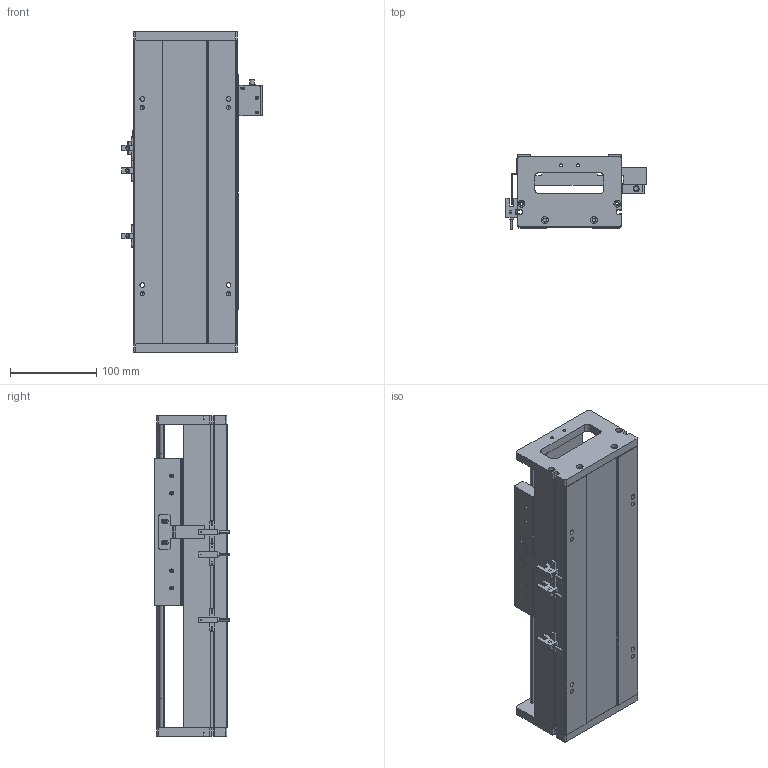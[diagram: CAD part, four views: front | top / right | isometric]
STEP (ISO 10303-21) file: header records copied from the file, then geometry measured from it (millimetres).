
FILE_DESCRIPTION (( 'STEP AP203' ), '1' );
FILE_NAME ('SKR12S-C1-S102（简）.STEP', '2022-09-26T00:17:09', ( '' ), ( '' ), 'SwSTEP 2.0', 'SolidWorks 2018', '' );
FILE_SCHEMA (( 'CONFIG_CONTROL_DESIGN' ));
Length unit declared in the file: millimetre
Products named in the file (8): 覜茼え; SIKO棠掑; SKR12S-C1-S102（简）; SKR12耜啣; 棠掑假蚾輸; SKR12菁釱-C1-S102(潠); EE-SX672; SKR12滑台-170L（简）
Assembly tree (10 placements, depth 2):
  SKR12S-C1-S102（简）
    SKR12菁釱-C1-S102(潠)
    SKR12滑台-170L（简）
    SKR12耜啣  x2
    棠掑假蚾輸
    SIKO棠掑
    覜茼え
    EE-SX672  x3
Bounding box: 162.7 x 87.3 x 372 mm (x, y, z)
Volume: 2010550.6 mm3; surface area: 365565.8 mm2
Topology: 11 solids, 11 shells, 882 faces, 2325 edges, 1473 vertices
Faces by surface type: plane 385, cylinder 379, cone 118
Entity records: 23061 total; most frequent: CARTESIAN_POINT 4191, DIRECTION 3919, ORIENTED_EDGE 3646, EDGE_CURVE 1823, AXIS2_PLACEMENT_3D 1433, VERTEX_POINT 1177, VECTOR 1053, LINE 1053
